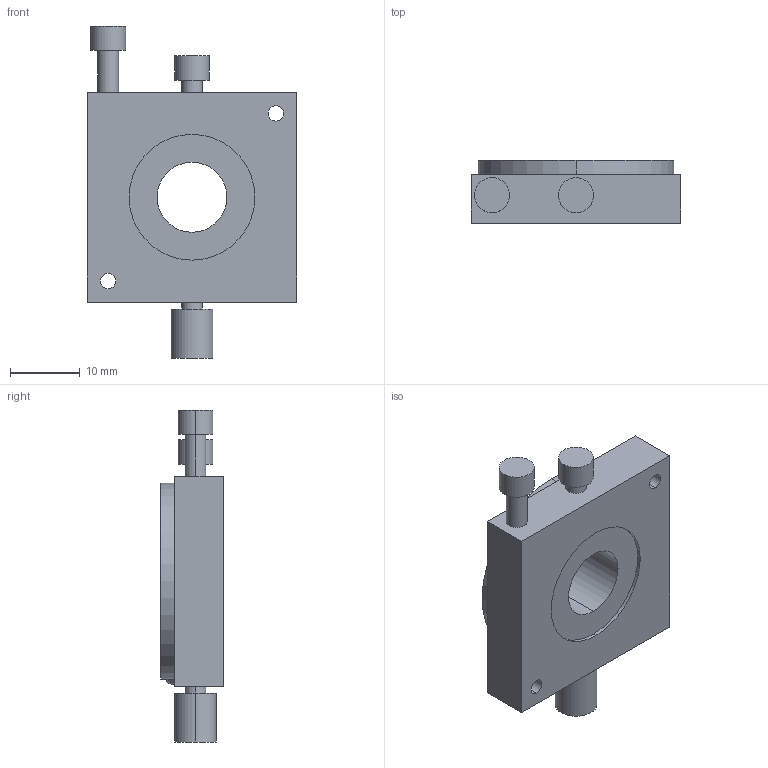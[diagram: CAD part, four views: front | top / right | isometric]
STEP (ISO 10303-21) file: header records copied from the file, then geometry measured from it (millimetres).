
FILE_DESCRIPTION (( 'STEP AP203' ), '1' );
FILE_NAME ('RS0314A000.STEP', '2010-09-07T00:14:44', ( '' ), ( '' ), 'SwSTEP 2.0', 'SolidWorks 2007', '' );
FILE_SCHEMA (( 'CONFIG_CONTROL_DESIGN' ));
Length unit declared in the file: millimetre
Products named in the file (3): RS-314T-1_蹬怮椔; RS-314T-2_蹬怮椔; RS0314A000
Assembly tree (2 placements, depth 2):
  RS0314A000
    RS-314T-2_蹬怮椔
    RS-314T-1_蹬怮椔
Bounding box: 30 x 9 x 47.5 mm (x, y, z)
Volume: 6962.2 mm3; surface area: 5182.3 mm2
Topology: 2 solids, 3 shells, 106 faces, 238 edges, 148 vertices
Faces by surface type: cylinder 64, plane 26, cone 10, sphere 4, torus 2
Entity records: 3359 total; most frequent: CARTESIAN_POINT 589, DIRECTION 582, ORIENTED_EDGE 456, AXIS2_PLACEMENT_3D 249, EDGE_CURVE 228, VERTEX_POINT 148, EDGE_LOOP 142, CIRCLE 138
